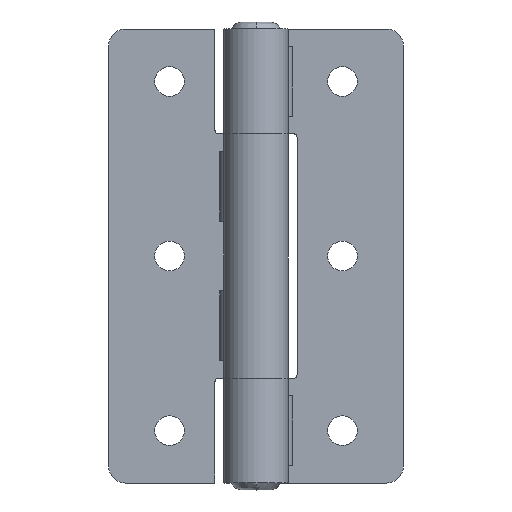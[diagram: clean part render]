
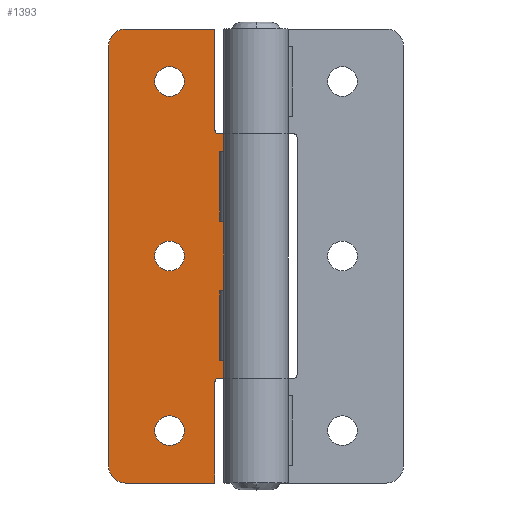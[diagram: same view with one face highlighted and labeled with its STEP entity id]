
A CAD part, top view. The second image highlights one B-rep face of the part: STEP entity #1393.
In plain terms, the highlighted planar face has unit normal (0, 0, 1).
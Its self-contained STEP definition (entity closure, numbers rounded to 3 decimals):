
#83=CARTESIAN_POINT('',(15.03,20.0,3.0));
#84=VERTEX_POINT('',#83);
#100=CARTESIAN_POINT('',(6.53,20.0,3.0));
#101=VERTEX_POINT('',#100);
#108=CARTESIAN_POINT('',(10.78,20.0,3.0));
#109=DIRECTION('',(0.0,0.0,-1.0));
#110=DIRECTION('',(1.0,0.0,0.0));
#111=AXIS2_PLACEMENT_3D('',#108,#109,#110);
#112=CIRCLE('',#111,4.25);
#113=EDGE_CURVE('',#84,#101,#112,.T.);
#125=CARTESIAN_POINT('',(15.03,-80.0,3.0));
#126=VERTEX_POINT('',#125);
#142=CARTESIAN_POINT('',(6.53,-80.0,3.0));
#143=VERTEX_POINT('',#142);
#150=CARTESIAN_POINT('',(10.78,-80.0,3.0));
#151=DIRECTION('',(0.0,0.0,-1.0));
#152=DIRECTION('',(1.0,0.0,0.0));
#153=AXIS2_PLACEMENT_3D('',#150,#151,#152);
#154=CIRCLE('',#153,4.25);
#155=EDGE_CURVE('',#126,#143,#154,.T.);
#167=CARTESIAN_POINT('',(15.03,-30.0,3.0));
#168=VERTEX_POINT('',#167);
#184=CARTESIAN_POINT('',(6.53,-30.0,3.0));
#185=VERTEX_POINT('',#184);
#192=CARTESIAN_POINT('',(10.78,-30.0,3.0));
#193=DIRECTION('',(0.0,0.0,-1.0));
#194=DIRECTION('',(1.0,0.0,0.0));
#195=AXIS2_PLACEMENT_3D('',#192,#193,#194);
#196=CIRCLE('',#195,4.25);
#197=EDGE_CURVE('',#168,#185,#196,.T.);
#217=CARTESIAN_POINT('',(-13.97,-65.0,3.0));
#218=VERTEX_POINT('',#217);
#226=CARTESIAN_POINT('',(-13.97,5.0,3.0));
#227=VERTEX_POINT('',#226);
#228=CARTESIAN_POINT('',(-13.97,5.0,3.0));
#229=DIRECTION('',(0.0,-1.0,0.0));
#230=VECTOR('',#229,70.0);
#231=LINE('',#228,#230);
#232=EDGE_CURVE('',#227,#218,#231,.T.);
#284=CARTESIAN_POINT('',(26.815,33.536,3.0));
#285=VERTEX_POINT('',#284);
#301=CARTESIAN_POINT('',(23.28,35.0,3.0));
#302=VERTEX_POINT('',#301);
#309=CARTESIAN_POINT('',(23.28,30.0,3.0));
#310=DIRECTION('',(0.0,0.0,-1.));
#311=DIRECTION('',(0.707,0.707,0.0));
#312=AXIS2_PLACEMENT_3D('',#309,#310,#311);
#313=CIRCLE('',#312,5.);
#314=EDGE_CURVE('',#302,#285,#313,.T.);
#326=CARTESIAN_POINT('',(26.815,-93.536,3.0));
#327=VERTEX_POINT('',#326);
#343=CARTESIAN_POINT('',(28.28,-90.0,3.0));
#344=VERTEX_POINT('',#343);
#351=CARTESIAN_POINT('',(23.28,-90.0,3.0));
#352=DIRECTION('',(0.0,0.0,-1.));
#353=DIRECTION('',(0.707,-0.707,0.0));
#354=AXIS2_PLACEMENT_3D('',#351,#352,#353);
#355=CIRCLE('',#354,5.);
#356=EDGE_CURVE('',#344,#327,#355,.T.);
#368=CARTESIAN_POINT('',(-2.513,5.293,3.0));
#369=VERTEX_POINT('',#368);
#385=CARTESIAN_POINT('',(-3.22,5.0,3.0));
#386=VERTEX_POINT('',#385);
#393=CARTESIAN_POINT('',(-3.22,6.0,3.0));
#394=DIRECTION('',(0.0,0.0,1.));
#395=DIRECTION('',(0.707,-0.707,0.0));
#396=AXIS2_PLACEMENT_3D('',#393,#394,#395);
#397=CIRCLE('',#396,1.);
#398=EDGE_CURVE('',#386,#369,#397,.T.);
#410=CARTESIAN_POINT('',(-2.513,-65.293,3.0));
#411=VERTEX_POINT('',#410);
#427=CARTESIAN_POINT('',(-2.22,-66.0,3.0));
#428=VERTEX_POINT('',#427);
#435=CARTESIAN_POINT('',(-3.22,-66.0,3.0));
#436=DIRECTION('',(0.0,0.0,1.));
#437=DIRECTION('',(0.707,0.707,0.0));
#438=AXIS2_PLACEMENT_3D('',#435,#436,#437);
#439=CIRCLE('',#438,1.);
#440=EDGE_CURVE('',#428,#411,#439,.T.);
#544=CARTESIAN_POINT('',(-6.97,-60.0,3.));
#545=VERTEX_POINT('',#544);
#552=CARTESIAN_POINT('',(-3.631,-60.0,3.));
#553=VERTEX_POINT('',#552);
#554=CARTESIAN_POINT('',(-3.631,-60.0,3.));
#555=DIRECTION('',(-1.0,0.0,0.0));
#556=VECTOR('',#555,3.339);
#557=LINE('',#554,#556);
#558=EDGE_CURVE('',#553,#545,#557,.T.);
#583=CARTESIAN_POINT('',(-6.97,-40.0,3.));
#584=VERTEX_POINT('',#583);
#591=CARTESIAN_POINT('',(-6.97,-60.0,3.));
#592=DIRECTION('',(0.0,1.0,0.0));
#593=VECTOR('',#592,20.0);
#594=LINE('',#591,#593);
#595=EDGE_CURVE('',#545,#584,#594,.T.);
#615=CARTESIAN_POINT('',(-3.631,-40.0,3.));
#616=VERTEX_POINT('',#615);
#617=CARTESIAN_POINT('',(-3.631,-40.0,3.));
#618=DIRECTION('',(0.0,-1.0,0.0));
#619=VECTOR('',#618,20.0);
#620=LINE('',#617,#619);
#621=EDGE_CURVE('',#616,#553,#620,.T.);
#648=CARTESIAN_POINT('',(-6.97,-40.0,3.));
#649=DIRECTION('',(1.0,0.0,0.0));
#650=VECTOR('',#649,3.339);
#651=LINE('',#648,#650);
#652=EDGE_CURVE('',#584,#616,#651,.T.);
#754=CARTESIAN_POINT('',(-6.97,-20.0,3.));
#755=VERTEX_POINT('',#754);
#762=CARTESIAN_POINT('',(-3.631,-20.0,3.));
#763=VERTEX_POINT('',#762);
#764=CARTESIAN_POINT('',(-3.631,-20.0,3.));
#765=DIRECTION('',(-1.0,0.0,0.0));
#766=VECTOR('',#765,3.339);
#767=LINE('',#764,#766);
#768=EDGE_CURVE('',#763,#755,#767,.T.);
#793=CARTESIAN_POINT('',(-6.97,0.,3.));
#794=VERTEX_POINT('',#793);
#801=CARTESIAN_POINT('',(-6.97,-20.0,3.));
#802=DIRECTION('',(0.0,1.0,0.0));
#803=VECTOR('',#802,20.0);
#804=LINE('',#801,#803);
#805=EDGE_CURVE('',#755,#794,#804,.T.);
#818=CARTESIAN_POINT('',(-3.631,0.,3.));
#819=VERTEX_POINT('',#818);
#820=CARTESIAN_POINT('',(-3.631,0.,3.));
#821=DIRECTION('',(0.0,-1.0,0.0));
#822=VECTOR('',#821,20.0);
#823=LINE('',#820,#822);
#824=EDGE_CURVE('',#819,#763,#823,.T.);
#843=CARTESIAN_POINT('',(-6.97,0.,3.));
#844=DIRECTION('',(1.0,0.0,0.0));
#845=VECTOR('',#844,3.339);
#846=LINE('',#843,#845);
#847=EDGE_CURVE('',#794,#819,#846,.T.);
#865=CARTESIAN_POINT('',(-3.22,-65.0,3.0));
#866=VERTEX_POINT('',#865);
#867=CARTESIAN_POINT('',(-3.22,-66.0,3.0));
#868=DIRECTION('',(0.0,0.0,1.));
#869=DIRECTION('',(0.707,0.707,0.0));
#870=AXIS2_PLACEMENT_3D('',#867,#868,#869);
#871=CIRCLE('',#870,1.);
#872=EDGE_CURVE('',#411,#866,#871,.T.);
#906=CARTESIAN_POINT('',(-2.22,-95.0,3.0));
#907=VERTEX_POINT('',#906);
#914=CARTESIAN_POINT('',(-2.22,-95.0,3.0));
#915=DIRECTION('',(0.0,1.0,0.0));
#916=VECTOR('',#915,29.0);
#917=LINE('',#914,#916);
#918=EDGE_CURVE('',#907,#428,#917,.T.);
#929=CARTESIAN_POINT('',(-2.22,6.0,3.0));
#930=VERTEX_POINT('',#929);
#931=CARTESIAN_POINT('',(-3.22,6.0,3.0));
#932=DIRECTION('',(0.0,0.0,1.));
#933=DIRECTION('',(0.707,-0.707,0.0));
#934=AXIS2_PLACEMENT_3D('',#931,#932,#933);
#935=CIRCLE('',#934,1.);
#936=EDGE_CURVE('',#369,#930,#935,.T.);
#988=CARTESIAN_POINT('',(-13.97,5.0,3.0));
#989=DIRECTION('',(1.0,0.0,0.0));
#990=VECTOR('',#989,10.75);
#991=LINE('',#988,#990);
#992=EDGE_CURVE('',#227,#386,#991,.T.);
#1003=CARTESIAN_POINT('',(23.28,-95.0,3.0));
#1004=VERTEX_POINT('',#1003);
#1005=CARTESIAN_POINT('',(23.28,-90.0,3.0));
#1006=DIRECTION('',(0.0,0.0,-1.));
#1007=DIRECTION('',(0.707,-0.707,0.0));
#1008=AXIS2_PLACEMENT_3D('',#1005,#1006,#1007);
#1009=CIRCLE('',#1008,5.);
#1010=EDGE_CURVE('',#327,#1004,#1009,.T.);
#1044=CARTESIAN_POINT('',(28.28,30.0,3.0));
#1045=VERTEX_POINT('',#1044);
#1052=CARTESIAN_POINT('',(28.28,30.0,3.0));
#1053=DIRECTION('',(0.0,-1.0,0.0));
#1054=VECTOR('',#1053,120.0);
#1055=LINE('',#1052,#1054);
#1056=EDGE_CURVE('',#1045,#344,#1055,.T.);
#1149=CARTESIAN_POINT('',(23.28,30.0,3.0));
#1150=DIRECTION('',(0.0,0.0,-1.));
#1151=DIRECTION('',(0.707,0.707,0.0));
#1152=AXIS2_PLACEMENT_3D('',#1149,#1150,#1151);
#1153=CIRCLE('',#1152,5.);
#1154=EDGE_CURVE('',#285,#1045,#1153,.T.);
#1168=CARTESIAN_POINT('',(-2.22,35.0,3.0));
#1169=VERTEX_POINT('',#1168);
#1176=CARTESIAN_POINT('',(-2.22,35.0,3.0));
#1177=DIRECTION('',(1.0,0.0,0.0));
#1178=VECTOR('',#1177,25.5);
#1179=LINE('',#1176,#1178);
#1180=EDGE_CURVE('',#1169,#302,#1179,.T.);
#1191=CARTESIAN_POINT('',(-3.22,-65.0,3.0));
#1192=DIRECTION('',(-1.0,0.0,0.0));
#1193=VECTOR('',#1192,10.75);
#1194=LINE('',#1191,#1193);
#1195=EDGE_CURVE('',#866,#218,#1194,.T.);
#1244=CARTESIAN_POINT('',(10.78,-30.0,3.0));
#1245=DIRECTION('',(0.0,0.0,-1.0));
#1246=DIRECTION('',(1.0,0.0,0.0));
#1247=AXIS2_PLACEMENT_3D('',#1244,#1245,#1246);
#1248=CIRCLE('',#1247,4.25);
#1249=EDGE_CURVE('',#185,#168,#1248,.T.);
#1262=CARTESIAN_POINT('',(10.78,-80.0,3.0));
#1263=DIRECTION('',(0.0,0.0,-1.0));
#1264=DIRECTION('',(1.0,0.0,0.0));
#1265=AXIS2_PLACEMENT_3D('',#1262,#1263,#1264);
#1266=CIRCLE('',#1265,4.25);
#1267=EDGE_CURVE('',#143,#126,#1266,.T.);
#1280=CARTESIAN_POINT('',(10.78,20.0,3.0));
#1281=DIRECTION('',(0.0,0.0,-1.0));
#1282=DIRECTION('',(1.0,0.0,0.0));
#1283=AXIS2_PLACEMENT_3D('',#1280,#1281,#1282);
#1284=CIRCLE('',#1283,4.25);
#1285=EDGE_CURVE('',#101,#84,#1284,.T.);
#1298=CARTESIAN_POINT('',(23.28,-95.0,3.0));
#1299=DIRECTION('',(-1.0,0.0,0.0));
#1300=VECTOR('',#1299,25.5);
#1301=LINE('',#1298,#1300);
#1302=EDGE_CURVE('',#1004,#907,#1301,.T.);
#1335=CARTESIAN_POINT('',(-2.22,6.0,3.0));
#1336=DIRECTION('',(0.0,1.0,0.0));
#1337=VECTOR('',#1336,29.0);
#1338=LINE('',#1335,#1337);
#1339=EDGE_CURVE('',#930,#1169,#1338,.T.);
#1346=CARTESIAN_POINT('',(3.266,0.,3.0));
#1347=DIRECTION('',(0.0,0.0,1.0));
#1348=DIRECTION('',(1.0,0.0,0.0));
#1349=AXIS2_PLACEMENT_3D('',#1346,#1347,#1348);
#1350=PLANE('',#1349);
#1351=ORIENTED_EDGE('',*,*,#356,.F.);
#1352=ORIENTED_EDGE('',*,*,#1056,.F.);
#1353=ORIENTED_EDGE('',*,*,#1154,.F.);
#1354=ORIENTED_EDGE('',*,*,#314,.F.);
#1355=ORIENTED_EDGE('',*,*,#1180,.F.);
#1356=ORIENTED_EDGE('',*,*,#1339,.F.);
#1357=ORIENTED_EDGE('',*,*,#936,.F.);
#1358=ORIENTED_EDGE('',*,*,#398,.F.);
#1359=ORIENTED_EDGE('',*,*,#992,.F.);
#1360=ORIENTED_EDGE('',*,*,#232,.T.);
#1361=ORIENTED_EDGE('',*,*,#1195,.F.);
#1362=ORIENTED_EDGE('',*,*,#872,.F.);
#1363=ORIENTED_EDGE('',*,*,#440,.F.);
#1364=ORIENTED_EDGE('',*,*,#918,.F.);
#1365=ORIENTED_EDGE('',*,*,#1302,.F.);
#1366=ORIENTED_EDGE('',*,*,#1010,.F.);
#1367=EDGE_LOOP('',(#1351,#1352,#1353,#1354,#1355,#1356,#1357,#1358,#1359,#1360,#1361,#1362,#1363,#1364,#1365,#1366));
#1368=FACE_OUTER_BOUND('',#1367,.T.);
#1369=ORIENTED_EDGE('',*,*,#595,.T.);
#1370=ORIENTED_EDGE('',*,*,#652,.T.);
#1371=ORIENTED_EDGE('',*,*,#621,.T.);
#1372=ORIENTED_EDGE('',*,*,#558,.T.);
#1373=EDGE_LOOP('',(#1369,#1370,#1371,#1372));
#1374=FACE_BOUND('',#1373,.T.);
#1375=ORIENTED_EDGE('',*,*,#805,.T.);
#1376=ORIENTED_EDGE('',*,*,#847,.T.);
#1377=ORIENTED_EDGE('',*,*,#824,.T.);
#1378=ORIENTED_EDGE('',*,*,#768,.T.);
#1379=EDGE_LOOP('',(#1375,#1376,#1377,#1378));
#1380=FACE_BOUND('',#1379,.T.);
#1381=ORIENTED_EDGE('',*,*,#197,.T.);
#1382=ORIENTED_EDGE('',*,*,#1249,.T.);
#1383=EDGE_LOOP('',(#1381,#1382));
#1384=FACE_BOUND('',#1383,.T.);
#1385=ORIENTED_EDGE('',*,*,#155,.T.);
#1386=ORIENTED_EDGE('',*,*,#1267,.T.);
#1387=EDGE_LOOP('',(#1385,#1386));
#1388=FACE_BOUND('',#1387,.T.);
#1389=ORIENTED_EDGE('',*,*,#113,.T.);
#1390=ORIENTED_EDGE('',*,*,#1285,.T.);
#1391=EDGE_LOOP('',(#1389,#1390));
#1392=FACE_BOUND('',#1391,.T.);
#1393=ADVANCED_FACE('',(#1368,#1374,#1380,#1384,#1388,#1392),#1350,.T.);
